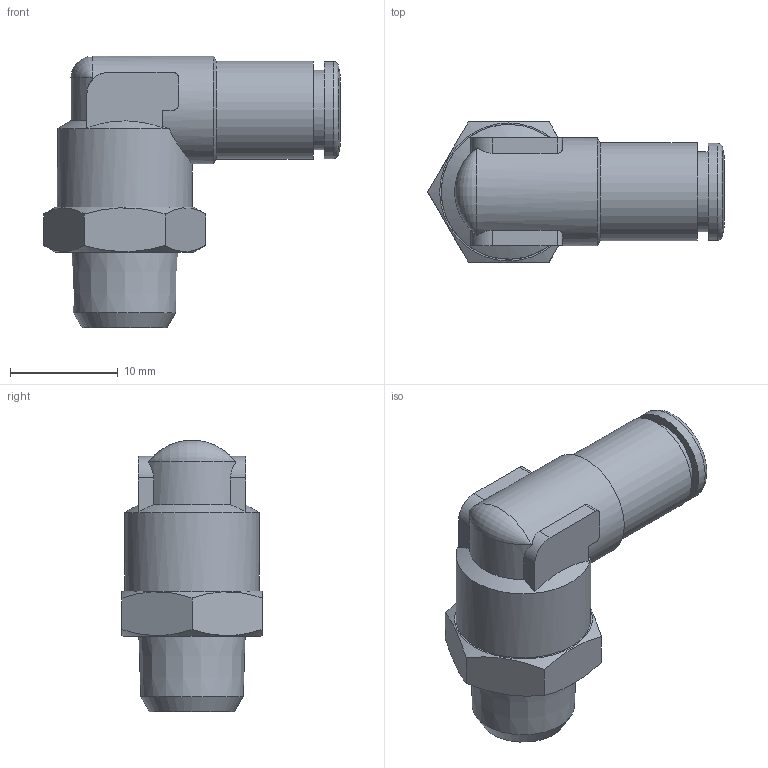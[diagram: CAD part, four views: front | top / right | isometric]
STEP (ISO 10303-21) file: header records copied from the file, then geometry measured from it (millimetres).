
FILE_DESCRIPTION(/* description */ (''),/* implementation_level */ '2;1');
FILE_NAME(/* name */ '202251-ES_STX022K_4_R18_16.06.16',/* time_stamp */ '2016-06-16T09:14:37+02:00',/* author */ (''),/* organization */ (''),/* preprocessor_version */ 'ST-DEVELOPER v14',/* originating_system */ 'HiCAD 2013 1802.4 Build 509',/* authorisation */ '');
FILE_SCHEMA (('AUTOMOTIVE_DESIGN { 1 0 10303 214 1 1 1 1 }'));
Length unit declared in the file: millimetre
Products named in the file (4): Root; 214625-1-N2; R202201-ES-N2; DR4-1_NEU
Assembly tree (3 placements, depth 2):
  Root
    214625-1-N2
    R202201-ES-N2
    DR4-1_NEU
Bounding box: 27.51 x 13 x 25.2 mm (x, y, z)
Volume: 2564.2 mm3; surface area: 3076.8 mm2
Topology: 3 solids, 3 shells, 72 faces, 164 edges, 103 vertices
Faces by surface type: plane 28, cylinder 23, cone 19, torus 2
Full cylindrical faces by diameter (mm): 4.1 x2, 5.5 x1, 6 x1, 6.4 x1, 7.3 x1, 7.4 x1, 7.6 x1, 9 x3, 9.1 x1, 10 x1, 10.1 x2, 12.5 x1
Entity records: 4390 total; most frequent: CARTESIAN_POINT 1597, DIRECTION 342, PRESENTATION_STYLE_ASSIGNMENT 249, OVER_RIDING_STYLED_ITEM 246, COLOUR_RGB 240, DRAUGHTING_PRE_DEFINED_CURVE_FONT 238, CURVE_STYLE 238, ORIENTED_EDGE 238
